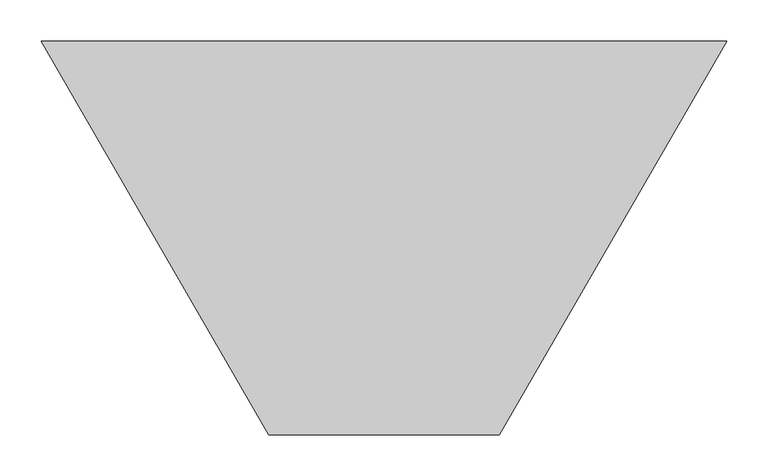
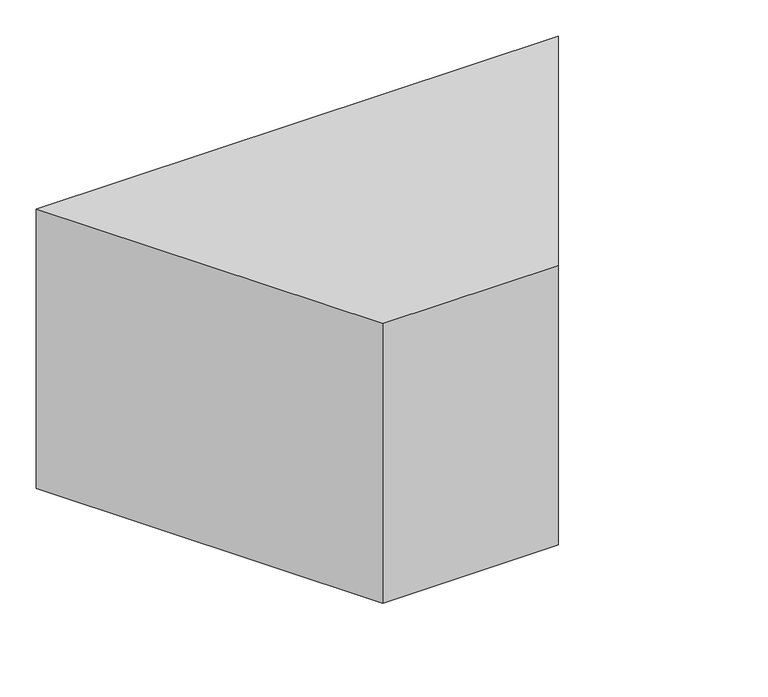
"""IFC4 building model written with IfcOpenShell, lengths in millimetres: furniture geometry, Hive Trapezoid Ottoman : Hive Trapezoid Ottoman."""

from ifc_helpers import new_model, si_unit, origin, origin_with_axes, place, context, project, spatial, polyline, outline, extrude, source, transform, mapped, element, save


def furniture_64804fba(model_context):
    return source(origin(), model_context, "Body", "SweptSolid", [
        extrude(outline(polyline([(-1.99e-05, -73.805), (830.0000402, -73.805), (554.7223268, -550.6), (275.277682, -550.6), (-1.99e-05, -73.805)])), origin_with_axes(), (0.0, 0.0, 1.0), 470.0),
    ])


if __name__ == "__main__":
    model = new_model("IFC4")
    model_context = context("Model", 3, world=origin())
    ifc_project = project(units=[si_unit("LENGTHUNIT", "METRE", prefix="MILLI")], contexts=[model_context])
    site = spatial("IfcSite", under=ifc_project)
    building = spatial("IfcBuilding", under=site)
    placement = place(None, origin())
    furniture_shape = furniture_64804fba(model_context)
    element("IfcFurniture", 1, ObjectType="Hive Trapezoid Ottoman : Hive Trapezoid Ottoman", at=placement, inside=building, context=model_context, shape_type="MappedRepresentation", body=[
        mapped(furniture_shape, transform((0.0, 0.0, 0.0), x_axis=(1.0, 0.0, 0.0), y_axis=(0.0, 1.0, 0.0), z_axis=(0.0, 0.0, 1.0))),
    ])
    save(model, "model.ifc")
